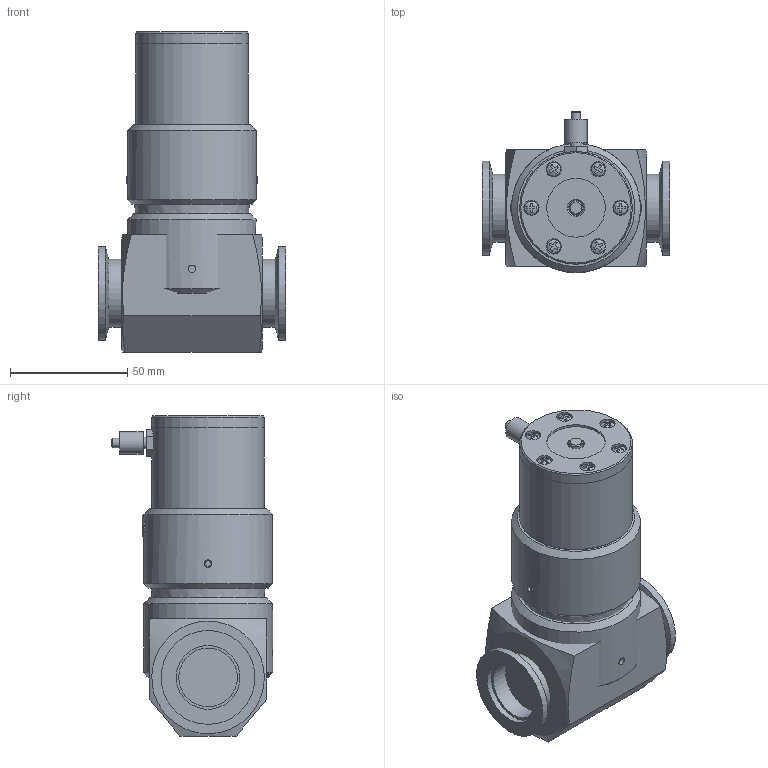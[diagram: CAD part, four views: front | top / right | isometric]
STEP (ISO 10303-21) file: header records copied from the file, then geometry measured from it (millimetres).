
FILE_DESCRIPTION( ( 'Unknown' ), '1' );
FILE_NAME( 'X:/Daten ( aktueller Bestand )/Projekte und Zeichnungen/Solid Edge/21 Eck + Durchgangsventile KF ISO-K, el.pneumatisch/Alu/Durchgangsventil/NW25/Internet/312411.stp', 'Unknown', ( 'Unknown' ), ( 'Unknown' ), 'XStep 1.0', 'Unknown', ' ' );
FILE_SCHEMA( ( 'automotive_design' ) );
Length unit declared in the file: millimetre
Products named in the file (10): Assem1; 3102-2; 3102-3; 3102-4; 3102-5; Anschluss Festo; Schraube 3x8; M3x4; 3024-2; 3104-1
Bounding box: 80 x 68.7 x 136.5 mm (x, y, z)
Volume: 665009.8 mm3; surface area: 129253.3 mm2
Topology: 24 solids, 24 shells, 433 faces, 969 edges, 645 vertices
Faces by surface type: plane 245, cylinder 127, cone 54, sphere 7
Full cylindrical faces by diameter (mm): 2 x2, 2.459 x12, 2.8 x2, 3 x10, 3.242 x4, 3.3 x12, 4 x2, 4.134 x4, 5 x4, 5.793 x7, 6 x4, 6.3 x2, 6.5 x12, 9.518 x2, 10 x2, 10.3 x2, 12 x2, 12.5 x2, 12.812 x2, 20 x2, 25 x6, 26 x2, 27.2 x4, 29 x4, 33.739 x2, 37.97 x2, 40 x4, 47.5 x2, 48 x4, 49.6 x2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
Entity records: 4649 total; most frequent: CARTESIAN_POINT 1235, DIRECTION 710, ORIENTED_EDGE 466, AXIS2_PLACEMENT_3D 318, EDGE_LOOP 301, EDGE_CURVE 233, FACE_OUTER_BOUND 223, VERTEX_POINT 205
